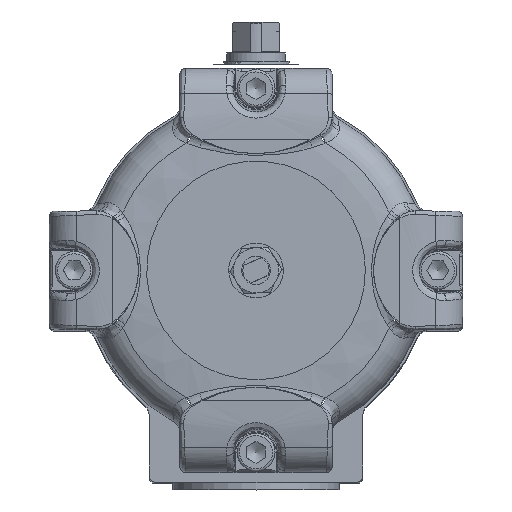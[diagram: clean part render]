
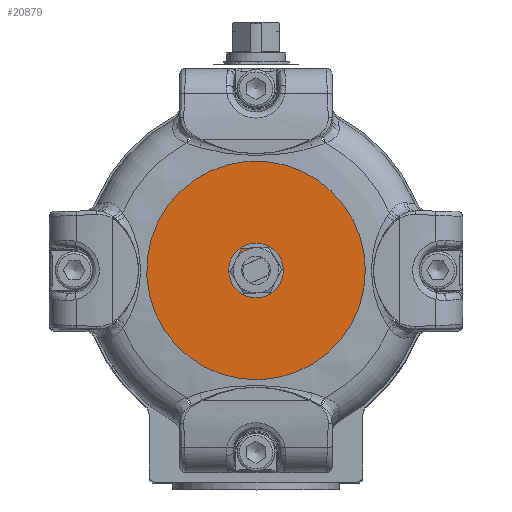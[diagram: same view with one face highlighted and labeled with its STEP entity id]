
A CAD part, top view. The second image highlights one B-rep face of the part: STEP entity #20879.
In plain terms, the highlighted planar face has unit normal (0, 0, 1).
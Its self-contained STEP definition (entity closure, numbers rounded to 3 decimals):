
#12459=CARTESIAN_POINT('',(46.0,0.,179.7));
#12460=VERTEX_POINT('',#12459);
#12461=CARTESIAN_POINT('',(0.,0.,179.7));
#12462=DIRECTION('',(0.0,0.0,-1.0));
#12463=DIRECTION('',(1.0,0.0,0.0));
#12464=AXIS2_PLACEMENT_3D('',#12461,#12462,#12463);
#12465=CIRCLE('',#12464,46.);
#12466=EDGE_CURVE('',#12460,#12460,#12465,.T.);
#20860=CARTESIAN_POINT('',(23.0,0.,179.7));
#20861=DIRECTION('',(0.0,0.0,1.0));
#20862=DIRECTION('',(0.0,1.0,0.0));
#20863=AXIS2_PLACEMENT_3D('',#20860,#20861,#20862);
#20864=PLANE('',#20863);
#20865=ORIENTED_EDGE('',*,*,#12466,.F.);
#20866=EDGE_LOOP('',(#20865));
#20867=FACE_OUTER_BOUND('',#20866,.T.);
#20868=CARTESIAN_POINT('',(0.,5.053,179.7));
#20869=VERTEX_POINT('',#20868);
#20870=CARTESIAN_POINT('',(0.,0.,179.7));
#20871=DIRECTION('',(0.0,0.0,-1.0));
#20872=DIRECTION('',(0.0,-1.0,0.0));
#20873=AXIS2_PLACEMENT_3D('',#20870,#20871,#20872);
#20874=CIRCLE('',#20873,5.053);
#20875=EDGE_CURVE('',#20869,#20869,#20874,.T.);
#20876=ORIENTED_EDGE('',*,*,#20875,.T.);
#20877=EDGE_LOOP('',(#20876));
#20878=FACE_BOUND('',#20877,.T.);
#20879=ADVANCED_FACE('',(#20867,#20878),#20864,.T.);
